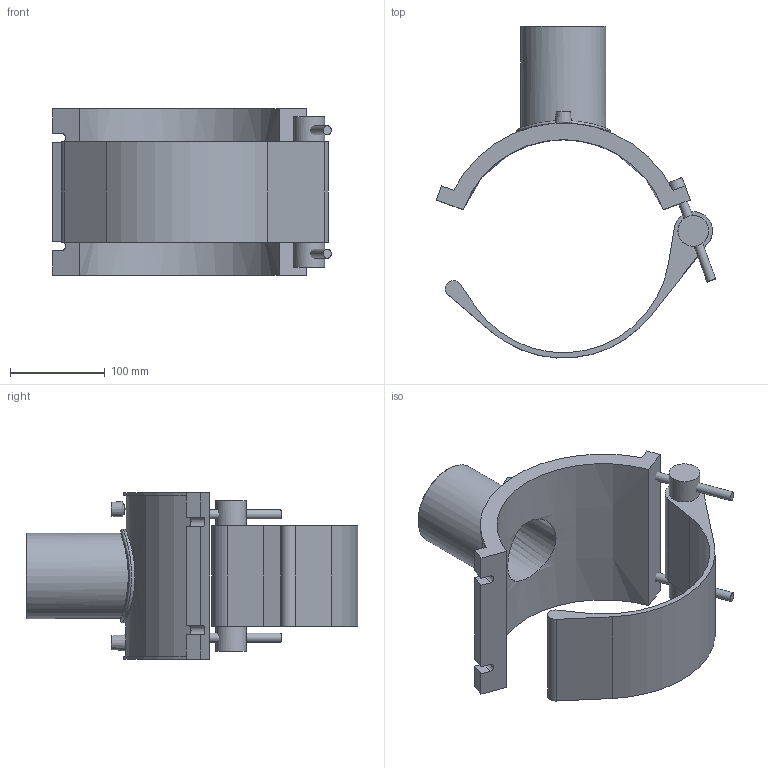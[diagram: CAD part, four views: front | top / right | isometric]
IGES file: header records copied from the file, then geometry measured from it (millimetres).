
Global section: file name: 495804225090.ipt; native system: Autodesk Inventor 2015; preprocessor: unknown; author: KIM; date: 20180426.120902; units: millimetre
Bounding box: 294.59 x 350.39 x 176 mm (x, y, z)
Volume: 1574603 mm3; surface area: 289941.5 mm2
Topology: 5 solids, 5 shells, 65 faces, 135 edges, 91 vertices
Faces by surface type: plane 37, cylinder 17, revolution 7, cone 3, bspline 1
Full cylindrical faces by diameter (mm): 4 x2, 9.45 x2, 15.75 x2, 32.4 x2, 90 x1, 99 x1
